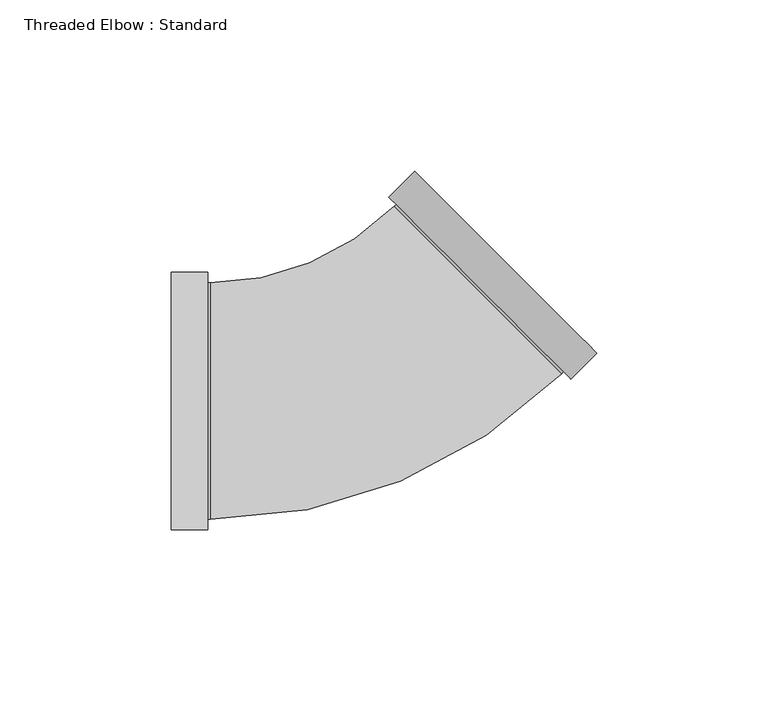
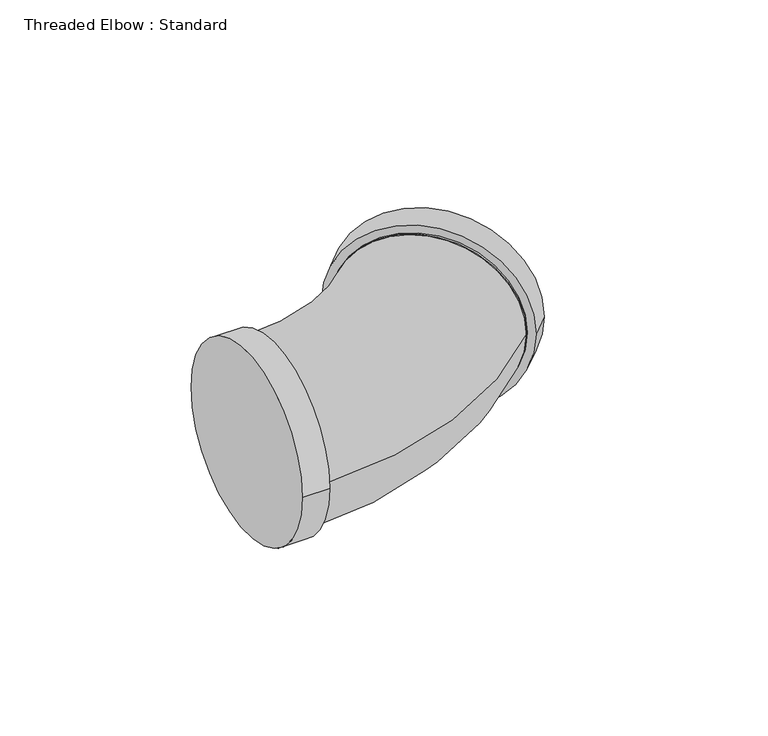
"""IFC4 building model written with IfcOpenShell, lengths in millimetres: pipe fitting geometry, Threaded Elbow : Standard."""

from ifc_helpers import new_model, si_unit, point, frame, origin, place, context, project, spatial, circle_curve, ellipse_curve, trimmed, source, transform, mapped, element, save
from ifc_brep_helpers import plane_surface, cylinder_surface, revolved_surface, advanced_brep


def threaded_elbow_standard_1325fe2b(model_context):
    return source(origin(), model_context, "Body", "AdvancedBrep", [
        advanced_brep(
        [(59.5630955, 6.3179549, 0.0), (6.3179549, 59.5630955, 0.0), (8.517057, 57.3639934, 0.0), (57.3639934, 8.517057, 0.0), (67.1291381, 13.8839975, 0.0), (13.8839975, 67.1291381, 0.0), (56.8027274, 7.955791, 0.0), (7.955791, 56.8027274, 0.0)],
        [
            (0, 1, circle_curve(frame((32.9405252, 32.9405252, 0.0), z_axis=(-0.7071067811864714, -0.7071067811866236, 0.0), x_axis=(-0.7071067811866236, 0.7071067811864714, 0.0)), 37.65)),
            (1, 0, circle_curve(frame((32.9405252, 32.9405252, 0.0), z_axis=(-0.7071067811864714, -0.7071067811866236, 0.0), x_axis=(-0.7071067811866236, 0.7071067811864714, 0.0)), 37.65)),
            (2, 3, circle_curve(frame((32.9405252, 32.9405252, 0.0), z_axis=(0.7071067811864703, 0.7071067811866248, 0.0), x_axis=(-0.7071067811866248, 0.7071067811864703, 0.0)), 34.54)),
            (3, 2, circle_curve(frame((32.9405252, 32.9405252, 0.0), z_axis=(0.7071067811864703, 0.7071067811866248, 0.0), x_axis=(-0.7071067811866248, 0.7071067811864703, 0.0)), 34.54)),
            (4, 5, circle_curve(frame((40.5065678, 40.5065678, 0.0), z_axis=(0.7071067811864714, 0.7071067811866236, 0.0), x_axis=(-0.7071067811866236, 0.7071067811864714, 0.0)), 37.65)),
            (5, 4, circle_curve(frame((40.5065678, 40.5065678, 0.0), z_axis=(0.7071067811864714, 0.7071067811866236, 0.0), x_axis=(-0.7071067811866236, 0.7071067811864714, 0.0)), 37.65)),
            (0, 4),
            (5, 1),
            (6, 7, circle_curve(frame((32.3792592, 32.3792592, 0.0), z_axis=(-0.7071067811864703, -0.7071067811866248, 0.0), x_axis=(-0.7071067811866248, 0.7071067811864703, 0.0)), 34.54)),
            (7, 6, circle_curve(frame((32.3792592, 32.3792592, 0.0), z_axis=(-0.7071067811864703, -0.7071067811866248, 0.0), x_axis=(-0.7071067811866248, 0.7071067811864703, 0.0)), 34.54)),
            (6, 3),
            (2, 7),
        ],
        [
            plane_surface(frame((32.9405252, 32.9405252, 0.0), z_axis=(-0.7071067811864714, -0.7071067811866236, 0.0), x_axis=(0.0, 0.0, 1.0))),
            plane_surface(frame((40.5065678, 40.5065678, 0.0), z_axis=(0.7071067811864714, 0.7071067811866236, 0.0), x_axis=(0.0, 0.0, 1.0))),
            cylinder_surface(frame((32.9405252, 32.9405252, 0.0), z_axis=(-0.7071067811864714, -0.7071067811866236, 0.0), x_axis=(-0.7071067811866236, 0.7071067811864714, 0.0)), 37.65),
            plane_surface(frame((32.3792592, 32.3792592, 0.0), z_axis=(-0.7071067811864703, -0.7071067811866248, 0.0), x_axis=(0.0, 0.0, 1.0))),
            cylinder_surface(frame((32.3792592, 32.3792592, 0.0), z_axis=(-0.7071067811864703, -0.7071067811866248, 0.0), x_axis=(-0.7071067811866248, 0.7071067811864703, 0.0)), 34.54),
        ],
        [
            (0, [[1, 2], [3, 4]]),
            (1, [[5, 6]]),
            (2, [[-1, 7, -6, 8]]),
            (2, [[-2, -8, -5, -7]]),
            (3, [[9, 10]]),
            (4, [[-9, 11, -3, 12]]),
            (4, [[-10, -12, -4, -11]]),
        ],
    ),
        advanced_brep(
        [(-46.5849375, 37.65, 0.0), (-46.5849375, -37.65, 0.0), (-46.5849375, -34.54, 0.0), (-46.5849375, 34.54, 0.0), (-57.2849375, 37.65, 0.0), (-57.2849375, -37.65, 0.0), (-45.7911875, 34.54, 0.0), (-45.7911875, -34.54, 0.0)],
        [
            (0, 1, circle_curve(frame((-46.5849375, 0.0, 0.0), z_axis=(1.0, 0.0, 0.0), x_axis=(0.0, -1.0, 0.0)), 37.65)),
            (1, 0, circle_curve(frame((-46.5849375, 0.0, 0.0), z_axis=(1.0, 0.0, 0.0), x_axis=(0.0, -1.0, 0.0)), 37.65)),
            (2, 3, circle_curve(frame((-46.5849375, 0.0, 0.0), z_axis=(-1.0, 0.0, 0.0), x_axis=(0.0, -1.0, 0.0)), 34.54)),
            (3, 2, circle_curve(frame((-46.5849375, 0.0, 0.0), z_axis=(-1.0, 0.0, 0.0), x_axis=(0.0, -1.0, 0.0)), 34.54)),
            (4, 5, circle_curve(frame((-57.2849375, 0.0, 0.0), z_axis=(-1.0, 0.0, 0.0), x_axis=(0.0, -1.0, 0.0)), 37.65)),
            (5, 4, circle_curve(frame((-57.2849375, 0.0, 0.0), z_axis=(-1.0, 0.0, 0.0), x_axis=(0.0, -1.0, 0.0)), 37.65)),
            (0, 4),
            (5, 1),
            (6, 7, circle_curve(frame((-45.7911875, 0.0, 0.0), z_axis=(1.0, 0.0, 0.0), x_axis=(0.0, -1.0, 0.0)), 34.54)),
            (7, 6, circle_curve(frame((-45.7911875, 0.0, 0.0), z_axis=(1.0, 0.0, 0.0), x_axis=(0.0, -1.0, 0.0)), 34.54)),
            (6, 3),
            (2, 7),
        ],
        [
            plane_surface(frame((-46.5849375, 0.0, 0.0), z_axis=(1.0, 0.0, 0.0), x_axis=(0.0, 0.0, 1.0))),
            plane_surface(frame((-57.2849375, 0.0, 0.0), z_axis=(-1.0, 0.0, 0.0), x_axis=(0.0, 0.0, 1.0))),
            cylinder_surface(frame((-46.5849375, 0.0, 0.0), z_axis=(1.0, 0.0, 0.0), x_axis=(0.0, -1.0, 0.0)), 37.65),
            plane_surface(frame((-45.7911875, 0.0, 0.0), z_axis=(1.0, 0.0, 0.0), x_axis=(0.0, 0.0, 1.0))),
            cylinder_surface(frame((-45.7911875, 0.0, 0.0), z_axis=(1.0, 0.0, 0.0), x_axis=(0.0, -1.0, 0.0)), 34.54),
        ],
        [
            (0, [[1, 2], [3, 4]]),
            (1, [[5, 6]]),
            (2, [[-1, 7, -6, 8]]),
            (2, [[-2, -8, -5, -7]]),
            (3, [[9, 10]]),
            (4, [[-9, 11, -3, 12]]),
            (4, [[-10, -12, -4, -11]]),
        ],
    ),
        advanced_brep(
        [(13.8839975, 67.1291381, 0.0), (67.1291381, 13.8839975, 0.0), (6.3179549, 59.5630955, 0.0), (59.5630955, 6.3179549, 0.0), (8.517057, 57.3639934, 0.0), (57.3639934, 8.517057, 0.0), (56.8027274, 7.955791, 0.0), (7.955791, 56.8027274, 0.0)],
        [
            (0, 1, circle_curve(frame((40.5065678, 40.5065678, 0.0), z_axis=(0.707106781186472, 0.7071067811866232, 0.0), x_axis=(0.7071067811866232, -0.707106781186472, 0.0)), 37.65)),
            (1, 0, circle_curve(frame((40.5065678, 40.5065678, 0.0), z_axis=(0.707106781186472, 0.7071067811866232, 0.0), x_axis=(0.7071067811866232, -0.707106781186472, 0.0)), 37.65)),
            (2, 3, circle_curve(frame((32.9405252, 32.9405252, 0.0), z_axis=(-0.707106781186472, -0.7071067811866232, 0.0), x_axis=(0.7071067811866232, -0.707106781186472, 0.0)), 37.65)),
            (3, 2, circle_curve(frame((32.9405252, 32.9405252, 0.0), z_axis=(-0.707106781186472, -0.7071067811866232, 0.0), x_axis=(0.7071067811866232, -0.707106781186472, 0.0)), 37.65)),
            (4, 5, circle_curve(frame((32.9405252, 32.9405252, 0.0), z_axis=(0.7071067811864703, 0.7071067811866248, 0.0), x_axis=(-0.7071067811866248, 0.7071067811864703, 0.0)), 34.54)),
            (5, 4, circle_curve(frame((32.9405252, 32.9405252, 0.0), z_axis=(0.7071067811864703, 0.7071067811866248, 0.0), x_axis=(-0.7071067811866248, 0.7071067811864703, 0.0)), 34.54)),
            (0, 2),
            (3, 1),
            (6, 7, circle_curve(frame((32.3792592, 32.3792592, 0.0), z_axis=(-0.7071067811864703, -0.7071067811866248, 0.0), x_axis=(-0.7071067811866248, 0.7071067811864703, 0.0)), 34.54)),
            (7, 6, circle_curve(frame((32.3792592, 32.3792592, 0.0), z_axis=(-0.7071067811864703, -0.7071067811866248, 0.0), x_axis=(-0.7071067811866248, 0.7071067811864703, 0.0)), 34.54)),
            (6, 5),
            (4, 7),
        ],
        [
            plane_surface(frame((40.5065678, 40.5065678, 0.0), z_axis=(0.707106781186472, 0.7071067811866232, 0.0), x_axis=(0.0, 0.0, 1.0))),
            plane_surface(frame((32.9405252, 32.9405252, 0.0), z_axis=(-0.707106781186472, -0.7071067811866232, 0.0), x_axis=(0.0, 0.0, 1.0))),
            cylinder_surface(frame((40.5065678, 40.5065678, 0.0), z_axis=(0.707106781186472, 0.7071067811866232, 0.0), x_axis=(0.7071067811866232, -0.707106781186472, 0.0)), 37.65),
            plane_surface(frame((32.3792592, 32.3792592, 0.0), z_axis=(-0.7071067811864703, -0.7071067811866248, 0.0), x_axis=(0.0, 0.0, 1.0))),
            cylinder_surface(frame((32.3792592, 32.3792592, 0.0), z_axis=(-0.7071067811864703, -0.7071067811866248, 0.0), x_axis=(-0.7071067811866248, 0.7071067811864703, 0.0)), 34.54),
        ],
        [
            (0, [[1, 2]]),
            (1, [[3, 4], [5, 6]]),
            (2, [[-1, 7, -4, 8]]),
            (2, [[-2, -8, -3, -7]]),
            (3, [[9, 10]]),
            (4, [[-9, 11, -5, 12]]),
            (4, [[-10, -12, -6, -11]]),
        ],
    ),
        advanced_brep(
        [(-46.5849375, -37.65, 0.0), (-46.5849375, 37.65, 0.0), (-46.5849375, -34.54, 0.0), (-46.5849375, 34.54, 0.0), (-57.2849375, -37.65, 0.0), (-57.2849375, 37.65, 0.0), (-45.7911875, 34.54, 0.0), (-45.7911875, -34.54, 0.0)],
        [
            (0, 1, circle_curve(frame((-46.5849375, 0.0, 0.0), z_axis=(1.0, 0.0, 0.0), x_axis=(0.0, 1.0, 0.0)), 37.65)),
            (1, 0, circle_curve(frame((-46.5849375, 0.0, 0.0), z_axis=(1.0, 0.0, 0.0), x_axis=(0.0, 1.0, 0.0)), 37.65)),
            (2, 3, circle_curve(frame((-46.5849375, 0.0, 0.0), z_axis=(-1.0, 0.0, 0.0), x_axis=(0.0, -1.0, 0.0)), 34.54)),
            (3, 2, circle_curve(frame((-46.5849375, 0.0, 0.0), z_axis=(-1.0, 0.0, 0.0), x_axis=(0.0, -1.0, 0.0)), 34.54)),
            (4, 5, circle_curve(frame((-57.2849375, 0.0, 0.0), z_axis=(-1.0, 0.0, 0.0), x_axis=(0.0, 1.0, 0.0)), 37.65)),
            (5, 4, circle_curve(frame((-57.2849375, 0.0, 0.0), z_axis=(-1.0, 0.0, 0.0), x_axis=(0.0, 1.0, 0.0)), 37.65)),
            (0, 4),
            (5, 1),
            (6, 7, circle_curve(frame((-45.7911875, 0.0, 0.0), z_axis=(1.0, 0.0, 0.0), x_axis=(0.0, -1.0, 0.0)), 34.54)),
            (7, 6, circle_curve(frame((-45.7911875, 0.0, 0.0), z_axis=(1.0, 0.0, 0.0), x_axis=(0.0, -1.0, 0.0)), 34.54)),
            (6, 3),
            (2, 7),
        ],
        [
            plane_surface(frame((-46.5849375, 37.65, 0.0), z_axis=(1.0, 0.0, 0.0), x_axis=(0.0, 0.0, 1.0))),
            plane_surface(frame((-57.2849375, 37.65, 0.0), z_axis=(-1.0, 0.0, 0.0), x_axis=(0.0, 0.0, -1.0))),
            cylinder_surface(frame((-57.2849375, 0.0, 0.0), z_axis=(1.0, 0.0, 0.0), x_axis=(0.0, 1.0, 0.0)), 37.65),
            plane_surface(frame((-45.7911875, 0.0, 0.0), z_axis=(1.0, 0.0, 0.0), x_axis=(0.0, 0.0, 1.0))),
            cylinder_surface(frame((-45.7911875, 0.0, 0.0), z_axis=(1.0, 0.0, 0.0), x_axis=(0.0, -1.0, 0.0)), 34.54),
        ],
        [
            (0, [[1, 2], [3, 4]]),
            (1, [[5, 6]]),
            (2, [[-1, 7, -6, 8]]),
            (2, [[-2, -8, -5, -7]]),
            (3, [[9, 10]]),
            (4, [[-9, 11, -3, 12]]),
            (4, [[-10, -12, -4, -11]]),
        ],
    ),
        advanced_brep(
        [(56.8027274, 7.955791, 0.0), (7.955791, 56.8027274, 0.0), (-45.7911875, -34.54, 0.0), (-45.7911875, 34.54, 0.0)],
        [
            (0, 1, circle_curve(frame((32.3792592, 32.3792592, 0.0), z_axis=(0.7071067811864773, 0.7071067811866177, 0.0), x_axis=(-0.7071067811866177, 0.7071067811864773, 0.0)), 34.54)),
            (1, 0, circle_curve(frame((32.3792592, 32.3792592, 0.0), z_axis=(0.7071067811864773, 0.7071067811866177, 0.0), x_axis=(-0.7071067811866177, 0.7071067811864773, 0.0)), 34.54)),
            (2, 3, circle_curve(frame((-45.7911875, 0.0, 0.0), z_axis=(-1.0, 0.0, 0.0), x_axis=(0.0, 1.0, 0.0)), 34.54)),
            (3, 2, circle_curve(frame((-45.7911875, 0.0, 0.0), z_axis=(-1.0, 0.0, 0.0), x_axis=(0.0, 1.0, 0.0)), 34.54)),
            (3, 1, circle_curve(frame((-45.7911875, 110.5497059, 0.0), z_axis=(0.0, 0.0, 1.0), x_axis=(1.0, 0.0, 0.0)), 76.0097059)),
            (0, 2, circle_curve(frame((-45.7911875, 110.5497059, 0.0), z_axis=(0.0, 0.0, -1.0), x_axis=(1.0, 0.0, 0.0)), 145.0897059)),
        ],
        [
            plane_surface(frame((32.3792592, 32.3792592, 0.0), z_axis=(0.7071067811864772, 0.707106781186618, 0.0), x_axis=(0.0, 0.0, -1.0))),
            plane_surface(frame((-45.7911875, 0.0, 0.0), z_axis=(-1.0, 0.0, 0.0), x_axis=(0.0, 0.0, -1.0))),
            revolved_surface(trimmed(ellipse_curve(frame((64.7585184, 110.5497059, 0.0), z_axis=(0.0, -1.0, 0.0), x_axis=(-1.0, 0.0, 0.0)), 34.54, 34.54), [point((30.2185184, 110.5497059, 0.0))], [point((99.2985184, 110.5497059, 0.0))], True, "CARTESIAN"), (-45.7911875, 110.5497059, 0.0), (0.0, 0.0, 1.0)),
            revolved_surface(trimmed(ellipse_curve(frame((64.7585184, 110.5497059, 0.0), z_axis=(0.0, -1.0, 0.0), x_axis=(-1.0, 0.0, 0.0)), 34.54, 34.54), [point((99.2985184, 110.5497059, 0.0))], [point((30.2185184, 110.5497059, 0.0))], True, "CARTESIAN"), (-45.7911875, 110.5497059, 0.0), (0.0, 0.0, 1.0)),
        ],
        [
            (0, [[1, 2]]),
            (1, [[3, 4]]),
            (2, [[-4, 5, -1, 6]]),
            (3, [[-3, -6, -2, -5]]),
        ],
    ),
        advanced_brep(
        [(56.8027274, 7.955791, 0.0), (7.955791, 56.8027274, 0.0), (-45.7911875, -34.54, 0.0), (-45.7911875, 34.54, 0.0)],
        [
            (0, 1, circle_curve(frame((32.3792592, 32.3792592, 0.0), z_axis=(0.7071067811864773, 0.7071067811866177, 0.0), x_axis=(-0.7071067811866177, 0.7071067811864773, 0.0)), 34.54)),
            (1, 0, circle_curve(frame((32.3792592, 32.3792592, 0.0), z_axis=(0.7071067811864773, 0.7071067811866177, 0.0), x_axis=(-0.7071067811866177, 0.7071067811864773, 0.0)), 34.54)),
            (2, 3, circle_curve(frame((-45.7911875, 0.0, 0.0), z_axis=(-1.0, 0.0, 0.0), x_axis=(0.0, 1.0, 0.0)), 34.54)),
            (3, 2, circle_curve(frame((-45.7911875, 0.0, 0.0), z_axis=(-1.0, 0.0, 0.0), x_axis=(0.0, 1.0, 0.0)), 34.54)),
            (3, 1, circle_curve(frame((-45.7911875, 110.5497059, 0.0), z_axis=(0.0, 0.0, 1.0), x_axis=(1.0, 0.0, 0.0)), 76.0097059)),
            (0, 2, circle_curve(frame((-45.7911875, 110.5497059, 0.0), z_axis=(0.0, 0.0, -1.0), x_axis=(1.0, 0.0, 0.0)), 145.0897059)),
        ],
        [
            plane_surface(frame((32.3792592, 32.3792592, 0.0), z_axis=(0.7071067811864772, 0.707106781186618, 0.0), x_axis=(0.0, 0.0, -1.0))),
            plane_surface(frame((-45.7911875, 0.0, 0.0), z_axis=(-1.0, 0.0, 0.0), x_axis=(0.0, 0.0, -1.0))),
            revolved_surface(trimmed(ellipse_curve(frame((64.7585184, 110.5497059, 0.0), z_axis=(0.0, -1.0, 0.0), x_axis=(-1.0, 0.0, 0.0)), 34.54, 34.54), [point((30.2185184, 110.5497059, 0.0))], [point((99.2985184, 110.5497059, 0.0))], True, "CARTESIAN"), (-45.7911875, 110.5497059, 0.0), (0.0, 0.0, 1.0)),
            revolved_surface(trimmed(ellipse_curve(frame((64.7585184, 110.5497059, 0.0), z_axis=(0.0, -1.0, 0.0), x_axis=(-1.0, 0.0, 0.0)), 34.54, 34.54), [point((99.2985184, 110.5497059, 0.0))], [point((30.2185184, 110.5497059, 0.0))], True, "CARTESIAN"), (-45.7911875, 110.5497059, 0.0), (0.0, 0.0, 1.0)),
        ],
        [
            (0, [[1, 2]]),
            (1, [[3, 4]]),
            (2, [[-4, 5, -1, 6]]),
            (3, [[-3, -6, -2, -5]]),
        ],
    ),
    ])


if __name__ == "__main__":
    model = new_model("IFC4")
    model_context = context("Model", 3, world=origin())
    ifc_project = project(units=[si_unit("LENGTHUNIT", "METRE", prefix="MILLI")], contexts=[model_context])
    site = spatial("IfcSite", under=ifc_project)
    building = spatial("IfcBuilding", under=site)
    placement = place(None, origin())
    threaded_elbow_standard_shape = threaded_elbow_standard_1325fe2b(model_context)
    element("IfcPipeFitting", 1, ObjectType="Threaded Elbow : Standard", at=placement, inside=building, context=model_context, shape_type="MappedRepresentation", body=[
        mapped(threaded_elbow_standard_shape, transform((0.0, 0.0, 0.0), x_axis=(1.0, 0.0, 0.0), y_axis=(0.0, 1.0, 0.0), z_axis=(0.0, 0.0, 1.0))),
    ])
    save(model, "model.ifc")
